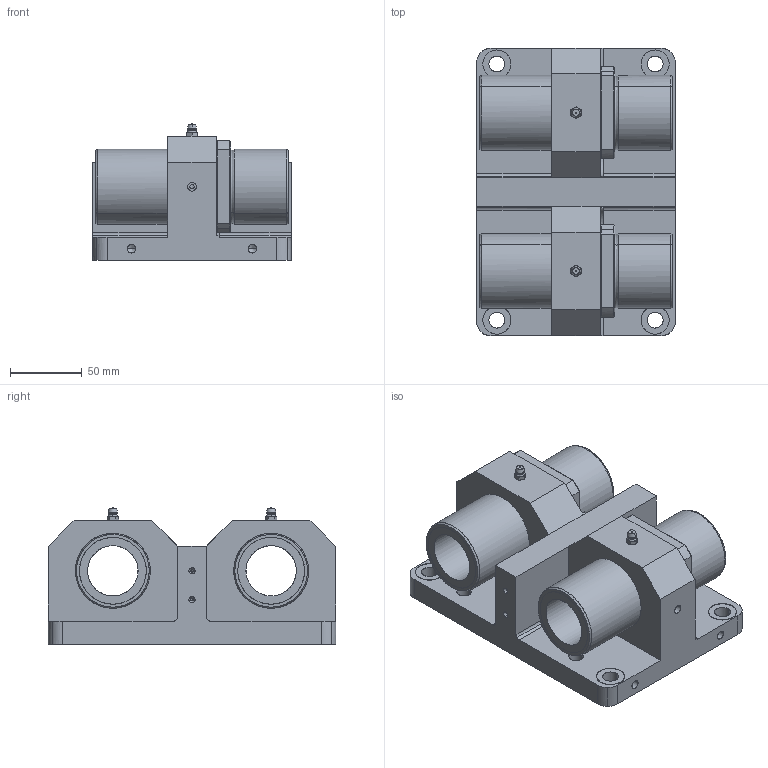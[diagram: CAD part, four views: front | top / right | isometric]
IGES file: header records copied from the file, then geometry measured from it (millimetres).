
Global section: file name: No Iges File Name specified; native system: AutoDesk Inventor R10; preprocessor: AutoDesk Inventor Iges Exporter R10; author: No Author specified; organization: No Organization specified; date: 20101227.101016; units: millimetre
Bounding box: 138 x 200 x 94.8 mm (x, y, z)
Surface area: 210535.2 mm2 (no closed solid volume)
Topology: 0 solids, 0 shells, 580 faces, 3730 edges, 3672 vertices
Faces by surface type: bspline 580
